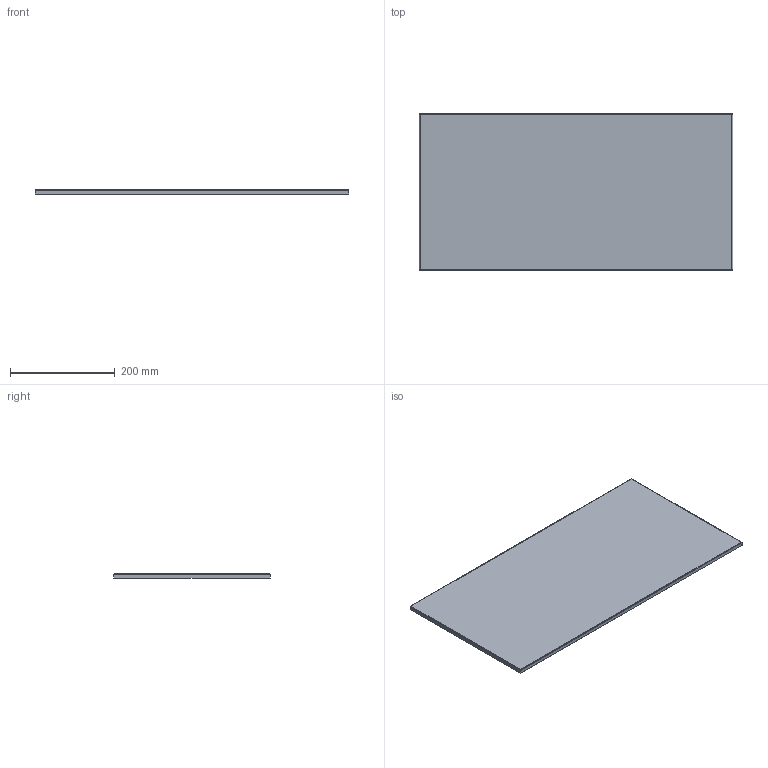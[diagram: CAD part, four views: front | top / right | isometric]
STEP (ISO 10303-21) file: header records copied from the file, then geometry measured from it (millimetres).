
FILE_DESCRIPTION(/* description */ ('-'),/* implementation_level */ '2;1');
FILE_NAME(/* name */ 'Decor_300x600.step',/* time_stamp */ '2025-01-27T18:45:25+01:00',/* author */ ('Jarosław Sierota'),/* organization */ ('JS'),/* preprocessor_version */ 'ST-DEVELOPER v20',/* originating_system */ 'Autodesk Inventor 2025',/* authorisation */ 'Jarosław Sierota');
FILE_SCHEMA (('AUTOMOTIVE_DESIGN { 1 0 10303 214 3 1 1 }'));
Length unit declared in the file: millimetre
Products named in the file (1): Decor_100x100
Bounding box: 600 x 300 x 8 mm (x, y, z)
Volume: 109630.8 mm3; surface area: 385734.3 mm2
Topology: 1 solids, 1 shells, 38 faces, 76 edges, 40 vertices
Faces by surface type: plane 22, bspline 8, cylinder 8
Entity records: 1399 total; most frequent: CARTESIAN_POINT 643, ORIENTED_EDGE 152, DIRECTION 122, EDGE_CURVE 76, LINE 60, VECTOR 60, VERTEX_POINT 40, FACE_OUTER_BOUND 38
